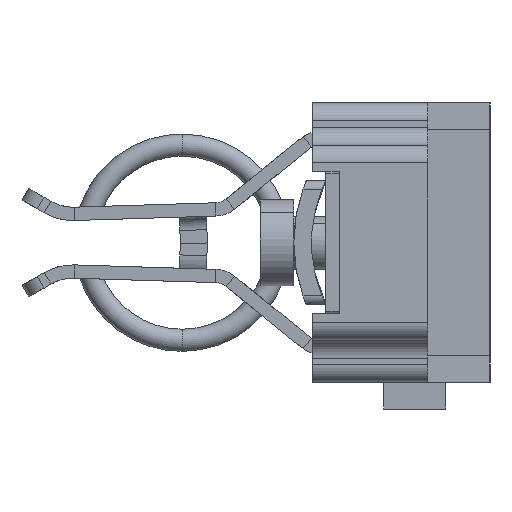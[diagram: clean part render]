
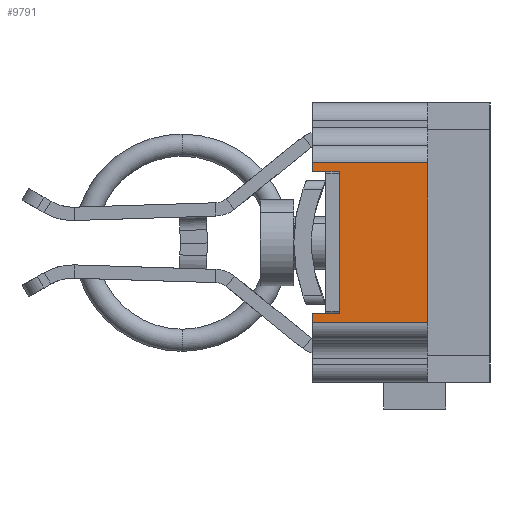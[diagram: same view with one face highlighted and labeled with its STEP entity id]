
A CAD part, left-side view. The second image highlights one B-rep face of the part: STEP entity #9791.
In plain terms, the highlighted planar face has unit normal (-1, 0, 0).
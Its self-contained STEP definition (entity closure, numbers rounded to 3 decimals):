
#579 = VECTOR ( 'NONE', #3624, 1000. ) ;
#718 = LINE ( 'NONE', #6323, #15133 ) ;
#1012 = DIRECTION ( 'NONE',  ( 0., 0., -1. ) ) ;
#1113 = VECTOR ( 'NONE', #1012, 1000. ) ;
#1311 = VERTEX_POINT ( 'NONE', #20158 ) ;
#1459 = DIRECTION ( 'NONE',  ( 0., 0., -1. ) ) ;
#1678 = VERTEX_POINT ( 'NONE', #19190 ) ;
#1871 = EDGE_CURVE ( 'NONE', #2202, #21435, #12294, .T. ) ;
#2118 = CARTESIAN_POINT ( 'NONE',  ( -58.5, 20., 9. ) ) ;
#2202 = VERTEX_POINT ( 'NONE', #2118 ) ;
#2493 = CARTESIAN_POINT ( 'NONE',  ( -58.5, 7., -9. ) ) ;
#2911 = CARTESIAN_POINT ( 'NONE',  ( -58.5, 17., 8. ) ) ;
#3340 = VECTOR ( 'NONE', #1459, 1000. ) ;
#3624 = DIRECTION ( 'NONE',  ( 0., -1., 0. ) ) ;
#4250 = VECTOR ( 'NONE', #14573, 1000. ) ;
#4649 = DIRECTION ( 'NONE',  ( 0., 0., 1. ) ) ;
#5278 = CARTESIAN_POINT ( 'NONE',  ( -58.5, 7., -9. ) ) ;
#5341 = EDGE_CURVE ( 'NONE', #1311, #1678, #19846, .T. ) ;
#6006 = DIRECTION ( 'NONE',  ( 1., 0., 0. ) ) ;
#6115 = CARTESIAN_POINT ( 'NONE',  ( -58.5, 17., 8. ) ) ;
#6126 = EDGE_CURVE ( 'NONE', #16281, #2202, #718, .T. ) ;
#6323 = CARTESIAN_POINT ( 'NONE',  ( -58.5, 7., 9. ) ) ;
#6963 = LINE ( 'NONE', #2911, #7488 ) ;
#7457 = LINE ( 'NONE', #13443, #19206 ) ;
#7488 = VECTOR ( 'NONE', #9817, 1000. ) ;
#7726 = DIRECTION ( 'NONE',  ( 0., 1., 0. ) ) ;
#8088 = EDGE_CURVE ( 'NONE', #14746, #8144, #13888, .T. ) ;
#8144 = VERTEX_POINT ( 'NONE', #6115 ) ;
#8988 = LINE ( 'NONE', #21855, #4250 ) ;
#9791 = ADVANCED_FACE ( 'NONE', ( #16594 ), #21389, .F. ) ;
#9817 = DIRECTION ( 'NONE',  ( 0., 1., 0. ) ) ;
#9857 = VERTEX_POINT ( 'NONE', #2493 ) ;
#10069 = DIRECTION ( 'NONE',  ( 0., 1., 0. ) ) ;
#11082 = EDGE_CURVE ( 'NONE', #16281, #9857, #8988, .T. ) ;
#11623 = ORIENTED_EDGE ( 'NONE', *, *, #5341, .T. ) ;
#12294 = LINE ( 'NONE', #12989, #1113 ) ;
#12385 = ORIENTED_EDGE ( 'NONE', *, *, #6126, .T. ) ;
#12834 = AXIS2_PLACEMENT_3D ( 'NONE', #12904, #6006, #12835 ) ;
#12835 = DIRECTION ( 'NONE',  ( 0., 0., -1. ) ) ;
#12904 = CARTESIAN_POINT ( 'NONE',  ( -58.5, 7., 15.75 ) ) ;
#12989 = CARTESIAN_POINT ( 'NONE',  ( -58.5, 20., 15.75 ) ) ;
#13350 = VECTOR ( 'NONE', #4649, 1000. ) ;
#13417 = ORIENTED_EDGE ( 'NONE', *, *, #20288, .T. ) ;
#13443 = CARTESIAN_POINT ( 'NONE',  ( -58.5, 17., -8. ) ) ;
#13641 = ORIENTED_EDGE ( 'NONE', *, *, #1871, .T. ) ;
#13646 = ORIENTED_EDGE ( 'NONE', *, *, #8088, .F. ) ;
#13648 = EDGE_CURVE ( 'NONE', #1678, #9857, #19223, .T. ) ;
#13888 = LINE ( 'NONE', #16401, #13350 ) ;
#13976 = CARTESIAN_POINT ( 'NONE',  ( -58.5, 7., 9. ) ) ;
#14573 = DIRECTION ( 'NONE',  ( 0., 0., -1. ) ) ;
#14706 = CARTESIAN_POINT ( 'NONE',  ( -58.5, 20., 15.75 ) ) ;
#14746 = VERTEX_POINT ( 'NONE', #21707 ) ;
#15133 = VECTOR ( 'NONE', #7726, 1000. ) ;
#15793 = EDGE_LOOP ( 'NONE', ( #11623, #16259, #18726, #12385, #13641, #20068, #13646, #13417 ) ) ;
#16259 = ORIENTED_EDGE ( 'NONE', *, *, #13648, .T. ) ;
#16281 = VERTEX_POINT ( 'NONE', #13976 ) ;
#16401 = CARTESIAN_POINT ( 'NONE',  ( -58.5, 17., 8. ) ) ;
#16594 = FACE_OUTER_BOUND ( 'NONE', #15793, .T. ) ;
#18726 = ORIENTED_EDGE ( 'NONE', *, *, #11082, .F. ) ;
#19190 = CARTESIAN_POINT ( 'NONE',  ( -58.5, 20., -9. ) ) ;
#19206 = VECTOR ( 'NONE', #10069, 1000. ) ;
#19223 = LINE ( 'NONE', #5278, #579 ) ;
#19388 = EDGE_CURVE ( 'NONE', #8144, #21435, #6963, .T. ) ;
#19846 = LINE ( 'NONE', #14706, #3340 ) ;
#20068 = ORIENTED_EDGE ( 'NONE', *, *, #19388, .F. ) ;
#20158 = CARTESIAN_POINT ( 'NONE',  ( -58.5, 20., -8. ) ) ;
#20288 = EDGE_CURVE ( 'NONE', #14746, #1311, #7457, .T. ) ;
#21389 = PLANE ( 'NONE',  #12834 ) ;
#21435 = VERTEX_POINT ( 'NONE', #21619 ) ;
#21619 = CARTESIAN_POINT ( 'NONE',  ( -58.5, 20., 8. ) ) ;
#21707 = CARTESIAN_POINT ( 'NONE',  ( -58.5, 17., -8. ) ) ;
#21855 = CARTESIAN_POINT ( 'NONE',  ( -58.5, 7., 15.75 ) ) ;
